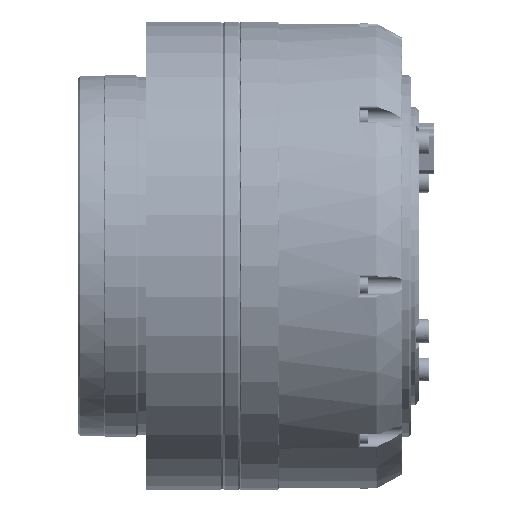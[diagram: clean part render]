
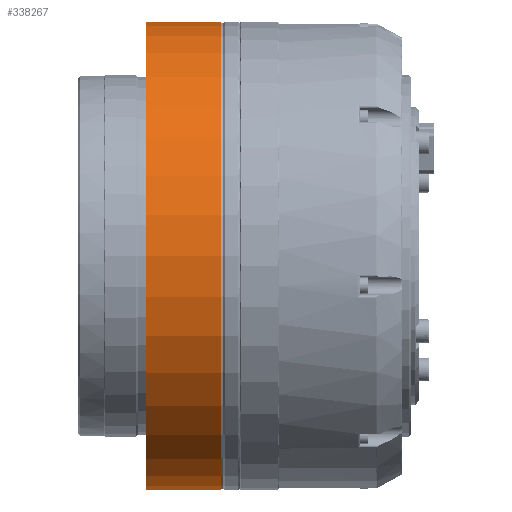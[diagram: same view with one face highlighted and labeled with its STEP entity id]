
A CAD part, left-side view. The second image highlights one B-rep face of the part: STEP entity #338267.
In plain terms, the highlighted cylindrical face has radius 55 mm (diameter 110 mm), a partial arc.
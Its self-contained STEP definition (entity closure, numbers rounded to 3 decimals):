
#17422 = CARTESIAN_POINT ( 'NONE',  ( 0., 4.5, 55. ) ) ;
#28011 = CARTESIAN_POINT ( 'NONE',  ( 0., 4.5, -55. ) ) ;
#30002 = VECTOR ( 'NONE', #57410, 1000. ) ;
#31182 = AXIS2_PLACEMENT_3D ( 'NONE', #164767, #294611, #108724 ) ;
#51239 = VERTEX_POINT ( 'NONE', #229257 ) ;
#57410 = DIRECTION ( 'NONE',  ( 0., -1., 0. ) ) ;
#70730 = CIRCLE ( 'NONE', #249928, 55. ) ;
#82110 = EDGE_LOOP ( 'NONE', ( #333880, #282104, #131380, #310833, #146814 ) ) ;
#90795 = CYLINDRICAL_SURFACE ( 'NONE', #260426, 55. ) ;
#98028 = CARTESIAN_POINT ( 'NONE',  ( 0., 22., -55. ) ) ;
#108724 = DIRECTION ( 'NONE',  ( -1., 0., 0. ) ) ;
#117107 = FACE_OUTER_BOUND ( 'NONE', #82110, .T. ) ;
#118632 = LINE ( 'NONE', #190694, #30002 ) ;
#122741 = VERTEX_POINT ( 'NONE', #28011 ) ;
#131380 = ORIENTED_EDGE ( 'NONE', *, *, #339489, .F. ) ;
#145149 = CARTESIAN_POINT ( 'NONE',  ( 0., 0., -55. ) ) ;
#146814 = ORIENTED_EDGE ( 'NONE', *, *, #329813, .F. ) ;
#148591 = AXIS2_PLACEMENT_3D ( 'NONE', #312878, #149817, #288287 ) ;
#149817 = DIRECTION ( 'NONE',  ( 0., -1., 0. ) ) ;
#149838 = CARTESIAN_POINT ( 'NONE',  ( 0., 4.5, 0. ) ) ;
#153969 = EDGE_CURVE ( 'NONE', #247797, #267336, #260706, .T. ) ;
#156432 = EDGE_CURVE ( 'NONE', #295204, #51239, #70730, .T. ) ;
#164767 = CARTESIAN_POINT ( 'NONE',  ( 0., 4.5, 0. ) ) ;
#172691 = DIRECTION ( 'NONE',  ( 0., -1., 0. ) ) ;
#182349 = CIRCLE ( 'NONE', #31182, 55. ) ;
#190694 = CARTESIAN_POINT ( 'NONE',  ( 0., 0., 55. ) ) ;
#192640 = DIRECTION ( 'NONE',  ( 0., -1., 0. ) ) ;
#218941 = LINE ( 'NONE', #145149, #325837 ) ;
#224546 = CARTESIAN_POINT ( 'NONE',  ( 0., 22., 55. ) ) ;
#227579 = CARTESIAN_POINT ( 'NONE',  ( 0., 0., 0. ) ) ;
#229257 = CARTESIAN_POINT ( 'NONE',  ( -55., 4.5, 0. ) ) ;
#243406 = EDGE_CURVE ( 'NONE', #267336, #122741, #218941, .T. ) ;
#247797 = VERTEX_POINT ( 'NONE', #224546 ) ;
#249928 = AXIS2_PLACEMENT_3D ( 'NONE', #149838, #172691, #305973 ) ;
#255552 = DIRECTION ( 'NONE',  ( 0., 0., 1. ) ) ;
#260426 = AXIS2_PLACEMENT_3D ( 'NONE', #227579, #304750, #255552 ) ;
#260706 = CIRCLE ( 'NONE', #148591, 55. ) ;
#267336 = VERTEX_POINT ( 'NONE', #98028 ) ;
#282104 = ORIENTED_EDGE ( 'NONE', *, *, #243406, .T. ) ;
#288287 = DIRECTION ( 'NONE',  ( 0., 0., 1. ) ) ;
#294611 = DIRECTION ( 'NONE',  ( 0., -1., 0. ) ) ;
#295204 = VERTEX_POINT ( 'NONE', #17422 ) ;
#304750 = DIRECTION ( 'NONE',  ( 0., -1., 0. ) ) ;
#305973 = DIRECTION ( 'NONE',  ( -1., 0., 0. ) ) ;
#310833 = ORIENTED_EDGE ( 'NONE', *, *, #156432, .F. ) ;
#312878 = CARTESIAN_POINT ( 'NONE',  ( 0., 22., 0. ) ) ;
#325837 = VECTOR ( 'NONE', #192640, 1000. ) ;
#329813 = EDGE_CURVE ( 'NONE', #247797, #295204, #118632, .T. ) ;
#333880 = ORIENTED_EDGE ( 'NONE', *, *, #153969, .T. ) ;
#338267 = ADVANCED_FACE ( 'NONE', ( #117107 ), #90795, .T. ) ;
#339489 = EDGE_CURVE ( 'NONE', #51239, #122741, #182349, .T. ) ;
